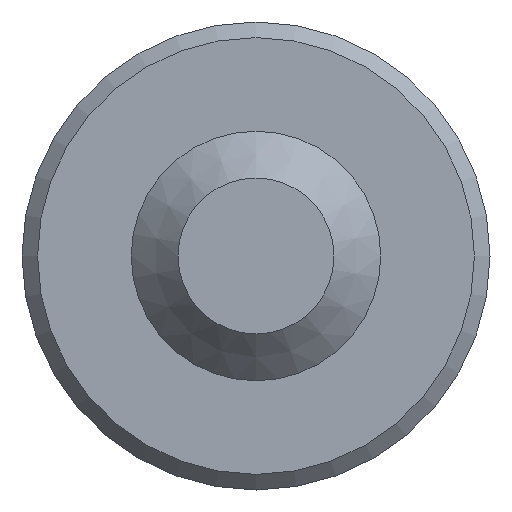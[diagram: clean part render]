
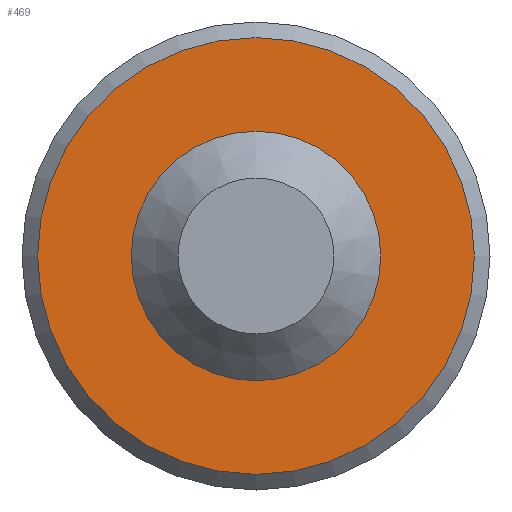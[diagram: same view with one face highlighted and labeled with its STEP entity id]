
A CAD part, front view. The second image highlights one B-rep face of the part: STEP entity #469.
In plain terms, the highlighted planar face has unit normal (0, -1, 0).
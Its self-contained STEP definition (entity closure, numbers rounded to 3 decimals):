
#24 = CARTESIAN_POINT ( 'NONE',  ( -0.75, 2.8, 0. ) ) ;
#27 = DIRECTION ( 'NONE',  ( 0., 0., 1. ) ) ;
#31 = CIRCLE ( 'NONE', #525, 0.7 ) ;
#32 = CARTESIAN_POINT ( 'NONE',  ( 0., 2.8, 0.7 ) ) ;
#50 = DIRECTION ( 'NONE',  ( 0., 0., 1. ) ) ;
#54 = CARTESIAN_POINT ( 'NONE',  ( 0., 2.8, 0. ) ) ;
#66 = DIRECTION ( 'NONE',  ( 0., 0., -1. ) ) ;
#124 = EDGE_LOOP ( 'NONE', ( #311 ) ) ;
#164 = EDGE_CURVE ( 'NONE', #578, #578, #31, .T. ) ;
#199 = CIRCLE ( 'NONE', #554, 0.4 ) ;
#210 = EDGE_LOOP ( 'NONE', ( #413 ) ) ;
#295 = FACE_OUTER_BOUND ( 'NONE', #124, .T. ) ;
#310 = EDGE_CURVE ( 'NONE', #493, #493, #199, .T. ) ;
#311 = ORIENTED_EDGE ( 'NONE', *, *, #164, .T. ) ;
#350 = DIRECTION ( 'NONE',  ( 0., -1., 0. ) ) ;
#387 = CARTESIAN_POINT ( 'NONE',  ( 0., 2.8, 0. ) ) ;
#404 = PLANE ( 'NONE',  #510 ) ;
#413 = ORIENTED_EDGE ( 'NONE', *, *, #310, .F. ) ;
#426 = FACE_BOUND ( 'NONE', #210, .T. ) ;
#449 = CARTESIAN_POINT ( 'NONE',  ( 0., 2.8, -0.4 ) ) ;
#463 = DIRECTION ( 'NONE',  ( 0., -1., 0. ) ) ;
#469 = ADVANCED_FACE ( 'NONE', ( #295, #426 ), #404, .F. ) ;
#493 = VERTEX_POINT ( 'NONE', #449 ) ;
#510 = AXIS2_PLACEMENT_3D ( 'NONE', #24, #532, #27 ) ;
#525 = AXIS2_PLACEMENT_3D ( 'NONE', #54, #463, #50 ) ;
#532 = DIRECTION ( 'NONE',  ( 0., 1., 0. ) ) ;
#554 = AXIS2_PLACEMENT_3D ( 'NONE', #387, #350, #66 ) ;
#578 = VERTEX_POINT ( 'NONE', #32 ) ;
